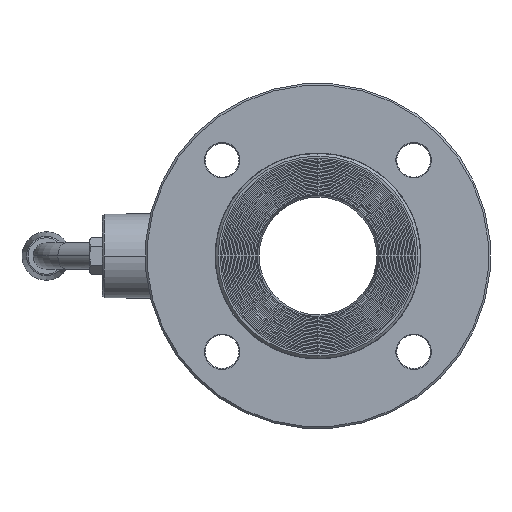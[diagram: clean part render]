
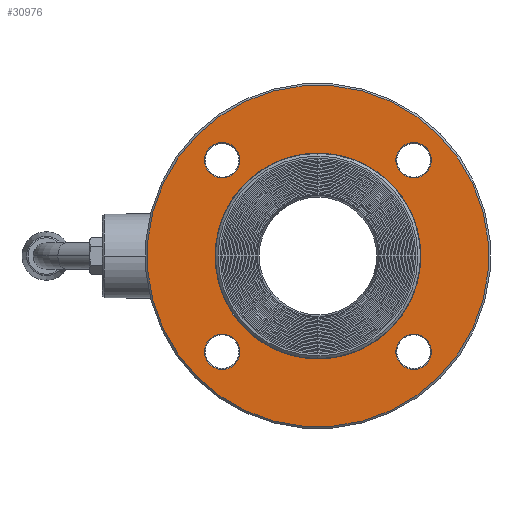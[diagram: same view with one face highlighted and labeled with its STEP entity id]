
A CAD part, left-side view. The second image highlights one B-rep face of the part: STEP entity #30976.
In plain terms, the highlighted planar face has unit normal (-1, 0, 0).
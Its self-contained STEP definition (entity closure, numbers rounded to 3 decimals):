
#3862=CARTESIAN_POINT('',(-83.,0.,0.));
#3863=DIRECTION('',(-1.,0.,0.));
#3864=DIRECTION('',(0.,0.707,0.707));
#3865=AXIS2_PLACEMENT_3D('',#3862,#3863,#3864);
#3867=CARTESIAN_POINT('',(-83.,0.,0.));
#3868=DIRECTION('',(-1.,0.,0.));
#3869=DIRECTION('',(0.,-0.707,-0.707));
#3870=AXIS2_PLACEMENT_3D('',#3867,#3868,#3869);
#3872=CARTESIAN_POINT('',(-83.,0.,0.));
#3873=DIRECTION('',(-1.,0.,0.));
#3874=DIRECTION('',(0.,0.707,0.707));
#3875=AXIS2_PLACEMENT_3D('',#3872,#3873,#3874);
#3877=CARTESIAN_POINT('',(-83.,0.,0.));
#3878=DIRECTION('',(-1.,0.,0.));
#3879=DIRECTION('',(0.,-0.707,-0.707));
#3880=AXIS2_PLACEMENT_3D('',#3877,#3878,#3879);
#3982=CARTESIAN_POINT('',(-83.,-51.265,-51.265));
#3983=DIRECTION('',(1.,0.,0.));
#3984=DIRECTION('',(0.,-0.707,-0.707));
#3985=AXIS2_PLACEMENT_3D('',#3982,#3983,#3984);
#4000=CARTESIAN_POINT('',(-83.,-51.265,-51.265));
#4001=DIRECTION('',(1.,0.,0.));
#4002=DIRECTION('',(0.,0.707,0.707));
#4003=AXIS2_PLACEMENT_3D('',#4000,#4001,#4002);
#4046=CARTESIAN_POINT('',(-83.,51.265,-51.265));
#4047=DIRECTION('',(1.,0.,0.));
#4048=DIRECTION('',(0.,-0.707,-0.707));
#4049=AXIS2_PLACEMENT_3D('',#4046,#4047,#4048);
#4064=CARTESIAN_POINT('',(-83.,51.265,-51.265));
#4065=DIRECTION('',(1.,0.,0.));
#4066=DIRECTION('',(0.,0.707,0.707));
#4067=AXIS2_PLACEMENT_3D('',#4064,#4065,#4066);
#4110=CARTESIAN_POINT('',(-83.,51.265,51.265));
#4111=DIRECTION('',(1.,0.,0.));
#4112=DIRECTION('',(0.,-0.707,-0.707));
#4113=AXIS2_PLACEMENT_3D('',#4110,#4111,#4112);
#4120=CARTESIAN_POINT('',(-83.,51.265,51.265));
#4121=DIRECTION('',(1.,0.,0.));
#4122=DIRECTION('',(0.,0.707,0.707));
#4123=AXIS2_PLACEMENT_3D('',#4120,#4121,#4122);
#4174=CARTESIAN_POINT('',(-83.,-51.265,51.265));
#4175=DIRECTION('',(1.,0.,0.));
#4176=DIRECTION('',(0.,-0.707,-0.707));
#4177=AXIS2_PLACEMENT_3D('',#4174,#4175,#4176);
#4192=CARTESIAN_POINT('',(-83.,-51.265,51.265));
#4193=DIRECTION('',(1.,0.,0.));
#4194=DIRECTION('',(0.,0.707,0.707));
#4195=AXIS2_PLACEMENT_3D('',#4192,#4193,#4194);
#26314=CARTESIAN_POINT('',(-83.,-44.548,57.983));
#26315=CARTESIAN_POINT('',(-83.,-57.983,44.548));
#26316=VERTEX_POINT('',#26314);
#26317=VERTEX_POINT('',#26315);
#26322=CARTESIAN_POINT('',(-83.,44.548,44.548));
#26323=CARTESIAN_POINT('',(-83.,57.983,57.983));
#26324=VERTEX_POINT('',#26322);
#26325=VERTEX_POINT('',#26323);
#26330=CARTESIAN_POINT('',(-83.,57.983,-44.548));
#26331=CARTESIAN_POINT('',(-83.,44.548,-57.983));
#26332=VERTEX_POINT('',#26330);
#26333=VERTEX_POINT('',#26331);
#26338=CARTESIAN_POINT('',(-83.,-44.548,-44.548));
#26339=CARTESIAN_POINT('',(-83.,-57.983,-57.983));
#26340=VERTEX_POINT('',#26338);
#26341=VERTEX_POINT('',#26339);
#26378=CARTESIAN_POINT('',(-83.,38.997,38.997));
#26379=CARTESIAN_POINT('',(-83.,-38.997,-38.997));
#26380=VERTEX_POINT('',#26378);
#26381=VERTEX_POINT('',#26379);
#26394=CARTESIAN_POINT('',(-83.,64.7,64.7));
#26395=CARTESIAN_POINT('',(-83.,-64.7,-64.7));
#26396=VERTEX_POINT('',#26394);
#26397=VERTEX_POINT('',#26395);
#30937=CARTESIAN_POINT('',(-83.,0.,0.));
#30938=DIRECTION('',(-1.,0.,0.));
#30939=DIRECTION('',(0.,-0.707,-0.707));
#30940=AXIS2_PLACEMENT_3D('',#30937,#30938,#30939);
#30941=PLANE('',#30940);
#30943=ORIENTED_EDGE('',*,*,#30942,.F.);
#30945=ORIENTED_EDGE('',*,*,#30944,.F.);
#30946=EDGE_LOOP('',(#30943,#30945));
#30947=FACE_OUTER_BOUND('',#30946,.F.);
#30949=ORIENTED_EDGE('',*,*,#30948,.F.);
#30951=ORIENTED_EDGE('',*,*,#30950,.F.);
#30952=EDGE_LOOP('',(#30949,#30951));
#30953=FACE_BOUND('',#30952,.F.);
#30955=ORIENTED_EDGE('',*,*,#30954,.F.);
#30957=ORIENTED_EDGE('',*,*,#30956,.F.);
#30958=EDGE_LOOP('',(#30955,#30957));
#30959=FACE_BOUND('',#30958,.F.);
#30961=ORIENTED_EDGE('',*,*,#30960,.F.);
#30963=ORIENTED_EDGE('',*,*,#30962,.F.);
#30964=EDGE_LOOP('',(#30961,#30963));
#30965=FACE_BOUND('',#30964,.F.);
#30967=ORIENTED_EDGE('',*,*,#30966,.F.);
#30969=ORIENTED_EDGE('',*,*,#30968,.F.);
#30970=EDGE_LOOP('',(#30967,#30969));
#30971=FACE_BOUND('',#30970,.F.);
#30972=ORIENTED_EDGE('',*,*,#30931,.T.);
#30973=ORIENTED_EDGE('',*,*,#30888,.T.);
#30974=EDGE_LOOP('',(#30972,#30973));
#30975=FACE_BOUND('',#30974,.F.);
#30976=ADVANCED_FACE('',(#30947,#30953,#30959,#30965,#30971,#30975),#30941,.T.);
#3866=CIRCLE('',#3865,91.5);
#3871=CIRCLE('',#3870,91.5);
#3876=CIRCLE('',#3875,55.15);
#3881=CIRCLE('',#3880,55.15);
#3986=CIRCLE('',#3985,9.5);
#4004=CIRCLE('',#4003,9.5);
#4050=CIRCLE('',#4049,9.5);
#4068=CIRCLE('',#4067,9.5);
#4114=CIRCLE('',#4113,9.5);
#4124=CIRCLE('',#4123,9.5);
#4178=CIRCLE('',#4177,9.5);
#4196=CIRCLE('',#4195,9.5);
#30888=EDGE_CURVE('',#26381,#26380,#3881,.T.);
#30931=EDGE_CURVE('',#26380,#26381,#3876,.T.);
#30942=EDGE_CURVE('',#26396,#26397,#3866,.T.);
#30944=EDGE_CURVE('',#26397,#26396,#3871,.T.);
#30948=EDGE_CURVE('',#26341,#26340,#3986,.T.);
#30950=EDGE_CURVE('',#26340,#26341,#4004,.T.);
#30954=EDGE_CURVE('',#26333,#26332,#4050,.T.);
#30956=EDGE_CURVE('',#26332,#26333,#4068,.T.);
#30960=EDGE_CURVE('',#26324,#26325,#4114,.T.);
#30962=EDGE_CURVE('',#26325,#26324,#4124,.T.);
#30966=EDGE_CURVE('',#26317,#26316,#4178,.T.);
#30968=EDGE_CURVE('',#26316,#26317,#4196,.T.);
